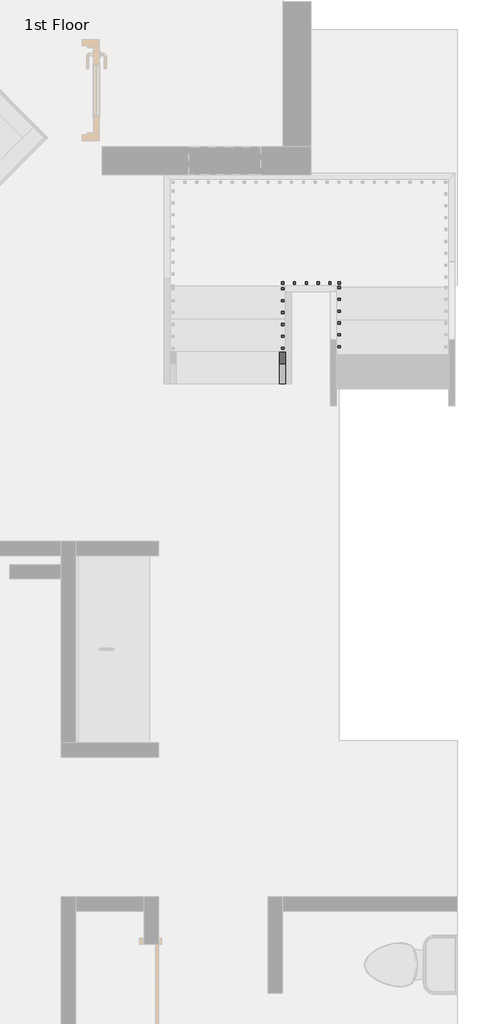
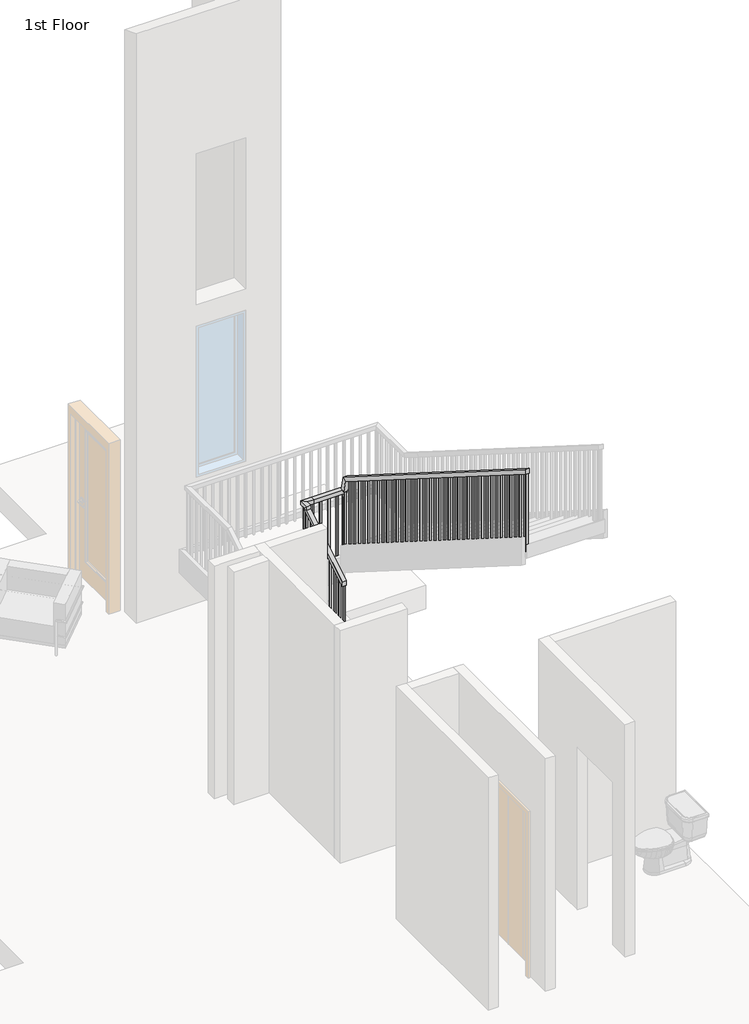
# One storey, part 4 of 6: 1 railing.
"""IFC4 building model written with IfcOpenShell, lengths in millimetres."""

import ifcopenshell
import ifcopenshell.guid

model = None  # the IFC model being written
_history = None  # IfcOwnerHistory: only IFC2X3 demands one
_inside = {}  # id of a spatial element -> (the spatial element, [elements in it])
_under = {}  # id of a project, library or spatial element -> (it, [spatial elements below it])
_declared = {}  # id of a project -> (the project, [libraries it declares])
_typed = {}  # id of a type object -> (the type object, [elements of that type])
_made_of = {}  # id of a material, layer set ... -> (it, [elements and type objects made of it])


def new_model(schema):
    """Start an empty IFC model of exactly this schema.

    Asked for "IFC4X3", IfcOpenShell would pick the latest addendum, in which some entities
    have other attributes; the version numbers below select the first issue.
    IFC2X3 requires an IfcOwnerHistory on every rooted entity: one is made here for all.
    """
    global model, _history
    if schema == "IFC4X3":
        model = ifcopenshell.file(schema_version=(4, 3, 0, 0))
    else:
        model = ifcopenshell.file(schema=schema)
    _inside.clear()
    _under.clear()
    _declared.clear()
    _typed.clear()
    _made_of.clear()
    _history = None
    if model.schema == "IFC2X3":
        org = make("IfcOrganization", Name="unknown")
        user = make(
            "IfcPersonAndOrganization",
            ThePerson=make("IfcPerson", FamilyName="unknown"),
            TheOrganization=org,
        )
        app = make(
            "IfcApplication",
            ApplicationDeveloper=org,
            Version="unknown",
            ApplicationFullName="unknown",
            ApplicationIdentifier="unknown",
        )
        _history = make(
            "IfcOwnerHistory",
            OwningUser=user,
            OwningApplication=app,
            ChangeAction="ADDED",
            CreationDate=0,
        )
    return model


def make(cls, **values):
    """One entity of the class cls with the attributes given. An attribute that is None is left unset."""
    return model.create_entity(
        cls, **{name: value for name, value in values.items() if value is not None}
    )


def rooted(cls, **values):
    """An entity with a GlobalId (a new one), such as an element, a storey or a relation."""
    return make(cls, GlobalId=ifcopenshell.guid.new(), OwnerHistory=_history, **values)


def si_unit(unit_type, name, prefix=None):
    """IfcSIUnit, for example si_unit("LENGTHUNIT", "METRE", prefix="MILLI")."""
    return make("IfcSIUnit", UnitType=unit_type, Prefix=prefix, Name=name)


def assignment(units):
    """IfcUnitAssignment: the units of a project."""
    return None if units is None else make("IfcUnitAssignment", Units=units)


def point(xyz):
    """IfcCartesianPoint."""
    return None if xyz is None else make("IfcCartesianPoint", Coordinates=xyz)


def direction(xyz):
    """IfcDirection."""
    return None if xyz is None else make("IfcDirection", DirectionRatios=xyz)


def frame(location, z_axis=None, x_axis=None):
    """IfcAxis2Placement3D, a coordinate frame: its origin and axes. An axis left out is left unset."""
    return make(
        "IfcAxis2Placement3D",
        Location=point(location),
        Axis=direction(z_axis),
        RefDirection=direction(x_axis),
    )


def origin():
    """The frame at (0, 0, 0) with its axes left unset."""
    return frame((0.0, 0.0, 0.0))


def place(relative_to, where):
    """IfcLocalPlacement: puts the frame where relative to a parent placement (None: the world)."""
    return make(
        "IfcLocalPlacement", PlacementRelTo=relative_to, RelativePlacement=where
    )


def context(
    kind, dimensions, precision=None, world=None, true_north=None, identifier=None
):
    """IfcGeometricRepresentationContext, for example the 3D "Model" context."""
    return make(
        "IfcGeometricRepresentationContext",
        ContextIdentifier=identifier,
        ContextType=kind,
        CoordinateSpaceDimension=dimensions,
        Precision=precision,
        WorldCoordinateSystem=world,
        TrueNorth=true_north,
    )


def project(units=None, contexts=None):
    """IfcProject with its units and contexts."""
    return rooted(
        "IfcProject",
        Name="project",
        RepresentationContexts=contexts,
        UnitsInContext=assignment(units),
    )


def spatial(cls, under=None, at=None, **own):
    """A site, building, storey or space (cls), placed at a placement, below another one or the project."""
    s = rooted(cls, ObjectPlacement=at, **own)
    if under is not None:
        _under.setdefault(under.id(), (under, []))[1].append(s)
    return s


def polyline(points):
    """IfcPolyline through the points."""
    return make("IfcPolyline", Points=[point(p) for p in points])


def outline(outer, holes=None, kind="AREA"):
    """IfcArbitraryClosedProfileDef: a profile drawn as a closed curve; with holes, ...WithVoids."""
    if holes is None:
        return make("IfcArbitraryClosedProfileDef", ProfileType=kind, OuterCurve=outer)
    return make(
        "IfcArbitraryProfileDefWithVoids",
        ProfileType=kind,
        OuterCurve=outer,
        InnerCurves=holes,
    )


def extrude(swept, where, along, depth):
    """IfcExtrudedAreaSolid: the profile swept, set in the frame where, extruded along a direction by depth."""
    return make(
        "IfcExtrudedAreaSolid",
        SweptArea=swept,
        Position=where,
        ExtrudedDirection=direction(along),
        Depth=depth,
    )


def faces_of(points, faces, orient=None, outer=None):
    """IfcFace entities. A face is a list of loops; a loop is a list of indices into points, from 0.

    orient and outer hold one flag for each loop. By default every Orientation is true, the
    first loop of a face is its IfcFaceOuterBound and the others are IfcFaceBound.
    """
    made = []
    for i, loops in enumerate(faces):
        bounds = []
        for j, loop in enumerate(loops):
            is_outer = j == 0 if outer is None else outer[i][j]
            bounds.append(
                make(
                    "IfcFaceOuterBound" if is_outer else "IfcFaceBound",
                    Bound=make("IfcPolyLoop", Polygon=[points[k] for k in loop]),
                    Orientation=True if orient is None else orient[i][j],
                )
            )
        made.append(make("IfcFace", Bounds=bounds))
    return made


def faceted_brep(points, faces, orient=None, outer=None, voids=None):
    """IfcFacetedBrep: a solid bounded by flat faces; with voids (closed shells), ...WithVoids."""
    shared = [point(p) for p in points]
    hull = make("IfcClosedShell", CfsFaces=faces_of(shared, faces, orient, outer))
    if voids is None:
        return make("IfcFacetedBrep", Outer=hull)
    return make(
        "IfcFacetedBrepWithVoids",
        Outer=hull,
        Voids=[
            make(cls, CfsFaces=faces_of(shared, fs, o, b)) for cls, fs, o, b in voids
        ],
    )


def shape(context_of_items, identifier, shape_type, items):
    """IfcShapeRepresentation: the items that make up one representation, for example the "Body"."""
    return make(
        "IfcShapeRepresentation",
        ContextOfItems=context_of_items,
        RepresentationIdentifier=identifier,
        RepresentationType=shape_type,
        Items=items,
    )


def made_of(thing, what):
    """Note that an element or type object is made of a material, layer set ...; save() writes the relation."""
    if what is not None:
        _made_of.setdefault(what.id(), (what, []))[1].append(thing)
    return thing


def element(
    cls,
    number,
    at=None,
    inside=None,
    cuts=None,
    type_object=None,
    material=None,
    context=None,
    identifier="Body",
    shape_type=None,
    held_by="IfcProductDefinitionShape",
    body=None,
    shapes=None,
    **own,
):
    """One element of the class cls, such as IfcWall. Its Tag is "e" and its number.

    at: its placement. inside: the storey or other place that contains it. cuts: it is an
    opening in that element (IfcRelVoidsElement). A single representation is given by context,
    identifier, shape_type and body (its items); several are given by shapes. held_by: the class
    of the entity that holds the representations. save() writes the other relations.
    """
    e = rooted(cls, Tag="e%d" % number, ObjectPlacement=at, **own)
    if body is not None:
        shapes = [shape(context, identifier, shape_type, body)]
    if shapes is not None:
        e.Representation = make(held_by, Representations=shapes)
    if inside is not None:
        _inside.setdefault(inside.id(), (inside, []))[1].append(e)
    if cuts is not None:
        rooted(
            "IfcRelVoidsElement", RelatingBuildingElement=cuts, RelatedOpeningElement=e
        )
    if type_object is not None:
        _typed.setdefault(type_object.id(), (type_object, []))[1].append(e)
    return made_of(e, material)


def aggregate(whole, parts):
    """IfcRelAggregates: a whole, such as a stair, and the parts it consists of."""
    return rooted("IfcRelAggregates", RelatingObject=whole, RelatedObjects=parts)


def save(model, path):
    """Write the relations noted so far, then the file.

    IfcRelAggregates (storeys below a building ...), IfcRelContainedInSpatialStructure (elements
    in a storey), IfcRelDefinesByType, IfcRelAssociatesMaterial and IfcRelDeclares: one each for
    every whole, place, type object, material and project.
    """
    for whole, parts in _under.values():
        aggregate(whole, parts)
    for where, things in _inside.values():
        rooted(
            "IfcRelContainedInSpatialStructure",
            RelatedElements=things,
            RelatingStructure=where,
        )
    for kind, things in _typed.values():
        rooted("IfcRelDefinesByType", RelatedObjects=things, RelatingType=kind)
    for what, things in _made_of.values():
        rooted("IfcRelAssociatesMaterial", RelatedObjects=things, RelatingMaterial=what)
    for by, libraries in _declared.values():
        rooted("IfcRelDeclares", RelatingContext=by, RelatedDefinitions=libraries)
    model.write(path)


model = new_model("IFC4")

# Units and contexts
model_context = context("Model", 3, world=origin())
ifc_project = project(units=[si_unit("LENGTHUNIT", "METRE", prefix="MILLI")], contexts=[model_context])

# Site, building, storey
site = spatial("IfcSite", under=ifc_project)
building = spatial("IfcBuilding", under=site)
storey = spatial("IfcBuildingStorey", under=building, Name="1st Floor", Elevation=0.0)

# Railing
placement = place(None, origin())
element("IfcRailing", 1, ObjectType="Handrail - Rectangular", at=placement, inside=storey, context=model_context, shape_type="SolidModel", body=[
    faceted_brep([(4173.7939282, 2721.6563085, 1090.8631579), (4173.7939282, 2721.6563085, 1030.7795781), (4224.5939282, 2721.6563085, 1030.7795781), (4224.5939282, 2721.6563085, 1090.8631579), (4173.7939282, 3483.6563085, 1572.1263158), (4173.7939282, 3534.4563085, 1544.1269465), (4224.5939282, 3534.4563085, 1544.1269465), (4224.5939282, 3483.6563085, 1572.1263158), (4173.7939282, 3483.6563085, 1620.2526316), (4173.7939282, 3534.4563085, 1569.4526316), (4224.5939282, 3534.4563085, 1569.4526316), (4224.5939282, 3483.6563085, 1620.2526316), (4173.7939282, 3610.6563085, 1620.2526316), (4173.7939282, 3610.6563085, 1569.4526316), (4224.5939282, 3559.8563085, 1569.4526316), (4224.5939282, 3559.8563085, 1620.2526316), (4300.7939282, 3610.6563085, 1620.2526316), (4300.7939282, 3610.6563085, 1569.4526316), (4300.7939282, 3559.8563085, 1569.4526316), (4300.7939282, 3559.8563085, 1620.2526316), (4709.2030789, 3610.6563085, 1620.2526316), (4709.2030789, 3559.8563085, 1620.2526316), (4709.2030789, 3559.8563085, 1569.4526316), (4709.2030789, 3610.6563085, 1569.4526316)], [[[0, 1, 2, 3]], [[1, 0, 4, 5]], [[2, 1, 5, 6]], [[3, 2, 6, 7]], [[0, 3, 7, 4]], [[5, 4, 8, 9]], [[6, 5, 9, 10]], [[7, 6, 10, 11]], [[4, 7, 11, 8]], [[9, 8, 12, 13]], [[10, 9, 13, 14]], [[11, 10, 14, 15]], [[8, 11, 15, 12]], [[13, 12, 16, 17]], [[14, 13, 17, 18]], [[15, 14, 18, 19]], [[12, 15, 19, 16]], [[20, 21, 22, 23]], [[17, 16, 20, 23]], [[18, 17, 23, 22]], [[19, 18, 22, 21]], [[16, 19, 21, 20]]]),
    faceted_brep([(4709.2030789, 3585.2563085, 1620.2526316), (4709.2030789, 3535.6297104, 1609.3971833), (4658.4030789, 3535.6297104, 1609.3971833), (4658.4030789, 3585.2563085, 1620.2526316), (4709.2030789, 3546.6563085, 1796.7157895), (4709.2030789, 3501.5690485, 1765.1083739), (4658.4030789, 3501.5690485, 1765.1083739), (4658.4030789, 3546.6563085, 1796.7157895), (4709.2030789, -364.9436915, 4267.2), (4658.4030789, -364.9436915, 4267.2), (4658.4030789, -364.9436915, 4207.1164202), (4709.2030789, -364.9436915, 4207.1164202)], [[[0, 1, 2, 3]], [[1, 0, 4, 5]], [[2, 1, 5, 6]], [[3, 2, 6, 7]], [[0, 3, 7, 4]], [[8, 9, 10, 11]], [[5, 4, 8, 11]], [[6, 5, 11, 10]], [[7, 6, 10, 9]], [[4, 7, 9, 8]]]),
    extrude(outline(polyline([(-323.6686915, 4181.0479991), (-304.6186915, 4169.0164202), (-304.6186915, 3176.3368421), (-323.6686915, 3176.3368421), (-323.6686915, 4181.0479991)])), frame((4674.2780789, 0.0, 0.0), z_axis=(1.0, 0.0, 0.0), x_axis=(0.0, 1.0, 0.0)), (0.0, 0.0, 1.0), 19.05),
    extrude(outline(polyline([(-222.0686915, 4116.8795781), (-203.0186915, 4104.8479991), (-203.0186915, 3176.3368421), (-222.0686915, 3176.3368421), (-222.0686915, 4116.8795781)])), frame((4674.2780789, 0.0, 0.0), z_axis=(1.0, 0.0, 0.0), x_axis=(0.0, 1.0, 0.0)), (0.0, 0.0, 1.0), 19.05),
    extrude(outline(polyline([(-120.4686915, 4052.711157), (-101.4186915, 4040.6795781), (-101.4186915, 3176.3368421), (-120.4686915, 3176.3368421), (-120.4686915, 4052.711157)])), frame((4674.2780789, 0.0, 0.0), z_axis=(1.0, 0.0, 0.0), x_axis=(0.0, 1.0, 0.0)), (0.0, 0.0, 1.0), 19.05),
    extrude(outline(polyline([(-18.8686915, 3988.542736), (0.1813085, 3976.511157), (0.1813085, 2999.8736842), (-18.8686915, 2999.8736842), (-18.8686915, 3988.542736)])), frame((4674.2780789, 0.0, 0.0), z_axis=(1.0, 0.0, 0.0), x_axis=(0.0, 1.0, 0.0)), (0.0, 0.0, 1.0), 19.05),
    extrude(outline(polyline([(82.7313085, 3924.3743149), (101.7813085, 3912.342736), (101.7813085, 2999.8736842), (82.7313085, 2999.8736842), (82.7313085, 3924.3743149)])), frame((4674.2780789, 0.0, 0.0), z_axis=(1.0, 0.0, 0.0), x_axis=(0.0, 1.0, 0.0)), (0.0, 0.0, 1.0), 19.05),
    extrude(outline(polyline([(184.3313085, 3860.2058939), (203.3813085, 3848.1743149), (203.3813085, 2999.8736842), (184.3313085, 2999.8736842), (184.3313085, 3860.2058939)])), frame((4674.2780789, 0.0, 0.0), z_axis=(1.0, 0.0, 0.0), x_axis=(0.0, 1.0, 0.0)), (0.0, 0.0, 1.0), 19.05),
    extrude(outline(polyline([(285.9313085, 3796.0374728), (304.9813085, 3784.0058939), (304.9813085, 2823.4105263), (285.9313085, 2823.4105263), (285.9313085, 3796.0374728)])), frame((4674.2780789, 0.0, 0.0), z_axis=(1.0, 0.0, 0.0), x_axis=(0.0, 1.0, 0.0)), (0.0, 0.0, 1.0), 19.05),
    extrude(outline(polyline([(387.5313085, 3731.8690517), (406.5813085, 3719.8374728), (406.5813085, 2823.4105263), (387.5313085, 2823.4105263), (387.5313085, 3731.8690517)])), frame((4674.2780789, 0.0, 0.0), z_axis=(1.0, 0.0, 0.0), x_axis=(0.0, 1.0, 0.0)), (0.0, 0.0, 1.0), 19.05),
    extrude(outline(polyline([(489.1313085, 3667.7006307), (508.1813085, 3655.6690517), (508.1813085, 2646.9473684), (489.1313085, 2646.9473684), (489.1313085, 3667.7006307)])), frame((4674.2780789, 0.0, 0.0), z_axis=(1.0, 0.0, 0.0), x_axis=(0.0, 1.0, 0.0)), (0.0, 0.0, 1.0), 19.05),
    extrude(outline(polyline([(590.7313085, 3603.5322096), (609.7813085, 3591.5006307), (609.7813085, 2646.9473684), (590.7313085, 2646.9473684), (590.7313085, 3603.5322096)])), frame((4674.2780789, 0.0, 0.0), z_axis=(1.0, 0.0, 0.0), x_axis=(0.0, 1.0, 0.0)), (0.0, 0.0, 1.0), 19.05),
    extrude(outline(polyline([(692.3313085, 3539.3637886), (711.3813085, 3527.3322096), (711.3813085, 2646.9473684), (692.3313085, 2646.9473684), (692.3313085, 3539.3637886)])), frame((4674.2780789, 0.0, 0.0), z_axis=(1.0, 0.0, 0.0), x_axis=(0.0, 1.0, 0.0)), (0.0, 0.0, 1.0), 19.05),
    extrude(outline(polyline([(793.9313085, 3475.1953675), (812.9813085, 3463.1637886), (812.9813085, 2470.4842105), (793.9313085, 2470.4842105), (793.9313085, 3475.1953675)])), frame((4674.2780789, 0.0, 0.0), z_axis=(1.0, 0.0, 0.0), x_axis=(0.0, 1.0, 0.0)), (0.0, 0.0, 1.0), 19.05),
    extrude(outline(polyline([(895.5313085, 3411.0269465), (914.5813085, 3398.9953675), (914.5813085, 2470.4842105), (895.5313085, 2470.4842105), (895.5313085, 3411.0269465)])), frame((4674.2780789, 0.0, 0.0), z_axis=(1.0, 0.0, 0.0), x_axis=(0.0, 1.0, 0.0)), (0.0, 0.0, 1.0), 19.05),
    extrude(outline(polyline([(997.1313085, 3346.8585254), (1016.1813085, 3334.8269465), (1016.1813085, 2470.4842105), (997.1313085, 2470.4842105), (997.1313085, 3346.8585254)])), frame((4674.2780789, 0.0, 0.0), z_axis=(1.0, 0.0, 0.0), x_axis=(0.0, 1.0, 0.0)), (0.0, 0.0, 1.0), 19.05),
    extrude(outline(polyline([(1098.7313085, 3282.6901044), (1117.7813085, 3270.6585254), (1117.7813085, 2294.0210526), (1098.7313085, 2294.0210526), (1098.7313085, 3282.6901044)])), frame((4674.2780789, 0.0, 0.0), z_axis=(1.0, 0.0, 0.0), x_axis=(0.0, 1.0, 0.0)), (0.0, 0.0, 1.0), 19.05),
    extrude(outline(polyline([(1200.3313085, 3218.5216833), (1219.3813085, 3206.4901044), (1219.3813085, 2294.0210526), (1200.3313085, 2294.0210526), (1200.3313085, 3218.5216833)])), frame((4674.2780789, 0.0, 0.0), z_axis=(1.0, 0.0, 0.0), x_axis=(0.0, 1.0, 0.0)), (0.0, 0.0, 1.0), 19.05),
    extrude(outline(polyline([(1301.9313085, 3154.3532623), (1320.9813085, 3142.3216833), (1320.9813085, 2294.0210526), (1301.9313085, 2294.0210526), (1301.9313085, 3154.3532623)])), frame((4674.2780789, 0.0, 0.0), z_axis=(1.0, 0.0, 0.0), x_axis=(0.0, 1.0, 0.0)), (0.0, 0.0, 1.0), 19.05),
    extrude(outline(polyline([(1403.5313085, 3090.1848412), (1422.5813085, 3078.1532623), (1422.5813085, 2117.5578947), (1403.5313085, 2117.5578947), (1403.5313085, 3090.1848412)])), frame((4674.2780789, 0.0, 0.0), z_axis=(1.0, 0.0, 0.0), x_axis=(0.0, 1.0, 0.0)), (0.0, 0.0, 1.0), 19.05),
    extrude(outline(polyline([(1505.1313085, 3026.0164202), (1524.1813085, 3013.9848412), (1524.1813085, 2117.5578947), (1505.1313085, 2117.5578947), (1505.1313085, 3026.0164202)])), frame((4674.2780789, 0.0, 0.0), z_axis=(1.0, 0.0, 0.0), x_axis=(0.0, 1.0, 0.0)), (0.0, 0.0, 1.0), 19.05),
    extrude(outline(polyline([(1606.7313085, 2961.8479991), (1625.7813085, 2949.8164202), (1625.7813085, 1941.0947368), (1606.7313085, 1941.0947368), (1606.7313085, 2961.8479991)])), frame((4674.2780789, 0.0, 0.0), z_axis=(1.0, 0.0, 0.0), x_axis=(0.0, 1.0, 0.0)), (0.0, 0.0, 1.0), 19.05),
    extrude(outline(polyline([(1708.3313085, 2897.6795781), (1727.3813085, 2885.6479991), (1727.3813085, 1941.0947368), (1708.3313085, 1941.0947368), (1708.3313085, 2897.6795781)])), frame((4674.2780789, 0.0, 0.0), z_axis=(1.0, 0.0, 0.0), x_axis=(0.0, 1.0, 0.0)), (0.0, 0.0, 1.0), 19.05),
    extrude(outline(polyline([(1809.9313085, 2833.511157), (1828.9813085, 2821.4795781), (1828.9813085, 1941.0947368), (1809.9313085, 1941.0947368), (1809.9313085, 2833.511157)])), frame((4674.2780789, 0.0, 0.0), z_axis=(1.0, 0.0, 0.0), x_axis=(0.0, 1.0, 0.0)), (0.0, 0.0, 1.0), 19.05),
    extrude(outline(polyline([(1911.5313085, 2769.342736), (1930.5813085, 2757.311157), (1930.5813085, 1764.6315789), (1911.5313085, 1764.6315789), (1911.5313085, 2769.342736)])), frame((4674.2780789, 0.0, 0.0), z_axis=(1.0, 0.0, 0.0), x_axis=(0.0, 1.0, 0.0)), (0.0, 0.0, 1.0), 19.05),
    extrude(outline(polyline([(2013.1313085, 2705.1743149), (2032.1813085, 2693.142736), (2032.1813085, 1764.6315789), (2013.1313085, 1764.6315789), (2013.1313085, 2705.1743149)])), frame((4674.2780789, 0.0, 0.0), z_axis=(1.0, 0.0, 0.0), x_axis=(0.0, 1.0, 0.0)), (0.0, 0.0, 1.0), 19.05),
    extrude(outline(polyline([(2114.7313085, 2641.0058939), (2133.7813085, 2628.9743149), (2133.7813085, 1764.6315789), (2114.7313085, 1764.6315789), (2114.7313085, 2641.0058939)])), frame((4674.2780789, 0.0, 0.0), z_axis=(1.0, 0.0, 0.0), x_axis=(0.0, 1.0, 0.0)), (0.0, 0.0, 1.0), 19.05),
    extrude(outline(polyline([(2216.3313085, 2576.8374728), (2235.3813085, 2564.8058939), (2235.3813085, 1588.1684211), (2216.3313085, 1588.1684211), (2216.3313085, 2576.8374728)])), frame((4674.2780789, 0.0, 0.0), z_axis=(1.0, 0.0, 0.0), x_axis=(0.0, 1.0, 0.0)), (0.0, 0.0, 1.0), 19.05),
    extrude(outline(polyline([(2317.9313085, 2512.6690517), (2336.9813085, 2500.6374728), (2336.9813085, 1588.1684211), (2317.9313085, 1588.1684211), (2317.9313085, 2512.6690517)])), frame((4674.2780789, 0.0, 0.0), z_axis=(1.0, 0.0, 0.0), x_axis=(0.0, 1.0, 0.0)), (0.0, 0.0, 1.0), 19.05),
    extrude(outline(polyline([(2419.5313085, 2448.5006307), (2438.5813085, 2436.4690517), (2438.5813085, 1588.1684211), (2419.5313085, 1588.1684211), (2419.5313085, 2448.5006307)])), frame((4674.2780789, 0.0, 0.0), z_axis=(1.0, 0.0, 0.0), x_axis=(0.0, 1.0, 0.0)), (0.0, 0.0, 1.0), 19.05),
    extrude(outline(polyline([(2521.1313085, 2384.3322096), (2540.1813085, 2372.3006307), (2540.1813085, 1411.7052632), (2521.1313085, 1411.7052632), (2521.1313085, 2384.3322096)])), frame((4674.2780789, 0.0, 0.0), z_axis=(1.0, 0.0, 0.0), x_axis=(0.0, 1.0, 0.0)), (0.0, 0.0, 1.0), 19.05),
    extrude(outline(polyline([(2622.7313085, 2320.1637886), (2641.7813085, 2308.1322096), (2641.7813085, 1411.7052632), (2622.7313085, 1411.7052632), (2622.7313085, 2320.1637886)])), frame((4674.2780789, 0.0, 0.0), z_axis=(1.0, 0.0, 0.0), x_axis=(0.0, 1.0, 0.0)), (0.0, 0.0, 1.0), 19.05),
    extrude(outline(polyline([(2724.3313085, 2255.9953675), (2743.3813085, 2243.9637886), (2743.3813085, 1235.2421053), (2724.3313085, 1235.2421053), (2724.3313085, 2255.9953675)])), frame((4674.2780789, 0.0, 0.0), z_axis=(1.0, 0.0, 0.0), x_axis=(0.0, 1.0, 0.0)), (0.0, 0.0, 1.0), 19.05),
    extrude(outline(polyline([(2825.9313085, 2191.8269465), (2844.9813085, 2179.7953675), (2844.9813085, 1235.2421053), (2825.9313085, 1235.2421053), (2825.9313085, 2191.8269465)])), frame((4674.2780789, 0.0, 0.0), z_axis=(1.0, 0.0, 0.0), x_axis=(0.0, 1.0, 0.0)), (0.0, 0.0, 1.0), 19.05),
    extrude(outline(polyline([(2927.5313085, 2127.6585254), (2946.5813085, 2115.6269465), (2946.5813085, 1235.2421053), (2927.5313085, 1235.2421053), (2927.5313085, 2127.6585254)])), frame((4674.2780789, 0.0, 0.0), z_axis=(1.0, 0.0, 0.0), x_axis=(0.0, 1.0, 0.0)), (0.0, 0.0, 1.0), 19.05),
    extrude(outline(polyline([(3029.1313085, 2063.4901044), (3048.1813085, 2051.4585254), (3048.1813085, 1058.7789474), (3029.1313085, 1058.7789474), (3029.1313085, 2063.4901044)])), frame((4674.2780789, 0.0, 0.0), z_axis=(1.0, 0.0, 0.0), x_axis=(0.0, 1.0, 0.0)), (0.0, 0.0, 1.0), 19.05),
    extrude(outline(polyline([(3130.7313085, 1999.3216833), (3149.7813085, 1987.2901044), (3149.7813085, 1058.7789474), (3130.7313085, 1058.7789474), (3130.7313085, 1999.3216833)])), frame((4674.2780789, 0.0, 0.0), z_axis=(1.0, 0.0, 0.0), x_axis=(0.0, 1.0, 0.0)), (0.0, 0.0, 1.0), 19.05),
    extrude(outline(polyline([(3232.3313085, 1935.1532623), (3251.3813085, 1923.1216833), (3251.3813085, 1058.7789474), (3232.3313085, 1058.7789474), (3232.3313085, 1935.1532623)])), frame((4674.2780789, 0.0, 0.0), z_axis=(1.0, 0.0, 0.0), x_axis=(0.0, 1.0, 0.0)), (0.0, 0.0, 1.0), 19.05),
    extrude(outline(polyline([(3333.9313085, 1870.9848412), (3352.9813085, 1858.9532623), (3352.9813085, 882.3157895), (3333.9313085, 882.3157895), (3333.9313085, 1870.9848412)])), frame((4674.2780789, 0.0, 0.0), z_axis=(1.0, 0.0, 0.0), x_axis=(0.0, 1.0, 0.0)), (0.0, 0.0, 1.0), 19.05),
    extrude(outline(polyline([(3435.5313085, 1806.8164202), (3454.5813085, 1794.7848412), (3454.5813085, 882.3157895), (3435.5313085, 882.3157895), (3435.5313085, 1806.8164202)])), frame((4674.2780789, 0.0, 0.0), z_axis=(1.0, 0.0, 0.0), x_axis=(0.0, 1.0, 0.0)), (0.0, 0.0, 1.0), 19.05),
    extrude(outline(polyline([(4596.0689282, 3575.7313085), (4596.0689282, 3594.7813085), (4615.1189282, 3594.7813085), (4615.1189282, 3575.7313085), (4596.0689282, 3575.7313085)])), frame((0.0, 0.0, 705.8526316), z_axis=(0.0, 0.0, 1.0), x_axis=(1.0, 0.0, 0.0)), (0.0, 0.0, 1.0), 863.6),
    extrude(outline(polyline([(4494.4689282, 3575.7313085), (4494.4689282, 3594.7813085), (4513.5189282, 3594.7813085), (4513.5189282, 3575.7313085), (4494.4689282, 3575.7313085)])), frame((0.0, 0.0, 705.8526316), z_axis=(0.0, 0.0, 1.0), x_axis=(1.0, 0.0, 0.0)), (0.0, 0.0, 1.0), 863.6),
    extrude(outline(polyline([(4392.8689282, 3575.7313085), (4392.8689282, 3594.7813085), (4411.9189282, 3594.7813085), (4411.9189282, 3575.7313085), (4392.8689282, 3575.7313085)])), frame((0.0, 0.0, 705.8526316), z_axis=(0.0, 0.0, 1.0), x_axis=(1.0, 0.0, 0.0)), (0.0, 0.0, 1.0), 863.6),
    extrude(outline(polyline([(4291.2689282, 3575.7313085), (4291.2689282, 3594.7813085), (4310.3189282, 3594.7813085), (4310.3189282, 3575.7313085), (4291.2689282, 3575.7313085)])), frame((0.0, 0.0, 705.8526316), z_axis=(0.0, 0.0, 1.0), x_axis=(1.0, 0.0, 0.0)), (0.0, 0.0, 1.0), 863.6),
    extrude(outline(polyline([(4208.7189282, 3524.9313085), (4189.6689282, 3524.9313085), (4189.6689282, 3543.9813085), (4208.7189282, 3543.9813085), (4208.7189282, 3524.9313085)])), frame((0.0, 0.0, 529.3894737), z_axis=(0.0, 0.0, 1.0), x_axis=(1.0, 0.0, 0.0)), (0.0, 0.0, 1.0), 1040.0631579),
    extrude(outline(polyline([(3423.3313085, 1473.942736), (3442.3813085, 1485.9743149), (3442.3813085, 529.3894737), (3423.3313085, 529.3894737), (3423.3313085, 1473.942736)])), frame((4189.6689282, 0.0, 0.0), z_axis=(1.0, 0.0, 0.0), x_axis=(0.0, 1.0, 0.0)), (0.0, 0.0, 1.0), 19.05),
    extrude(outline(polyline([(3321.7313085, 1409.7743149), (3340.7813085, 1421.8058939), (3340.7813085, 529.3894737), (3321.7313085, 529.3894737), (3321.7313085, 1409.7743149)])), frame((4189.6689282, 0.0, 0.0), z_axis=(1.0, 0.0, 0.0), x_axis=(0.0, 1.0, 0.0)), (0.0, 0.0, 1.0), 19.05),
    extrude(outline(polyline([(3220.1313085, 1345.6058939), (3239.1813085, 1357.6374728), (3239.1813085, 352.9263158), (3220.1313085, 352.9263158), (3220.1313085, 1345.6058939)])), frame((4189.6689282, 0.0, 0.0), z_axis=(1.0, 0.0, 0.0), x_axis=(0.0, 1.0, 0.0)), (0.0, 0.0, 1.0), 19.05),
    extrude(outline(polyline([(3118.5313085, 1281.4374728), (3137.5813085, 1293.4690517), (3137.5813085, 352.9263158), (3118.5313085, 352.9263158), (3118.5313085, 1281.4374728)])), frame((4189.6689282, 0.0, 0.0), z_axis=(1.0, 0.0, 0.0), x_axis=(0.0, 1.0, 0.0)), (0.0, 0.0, 1.0), 19.05),
    extrude(outline(polyline([(3016.9313085, 1217.2690517), (3035.9813085, 1229.3006307), (3035.9813085, 352.9263158), (3016.9313085, 352.9263158), (3016.9313085, 1217.2690517)])), frame((4189.6689282, 0.0, 0.0), z_axis=(1.0, 0.0, 0.0), x_axis=(0.0, 1.0, 0.0)), (0.0, 0.0, 1.0), 19.05),
    extrude(outline(polyline([(2915.3313085, 1153.1006307), (2934.3813085, 1165.1322096), (2934.3813085, 176.4631579), (2915.3313085, 176.4631579), (2915.3313085, 1153.1006307)])), frame((4189.6689282, 0.0, 0.0), z_axis=(1.0, 0.0, 0.0), x_axis=(0.0, 1.0, 0.0)), (0.0, 0.0, 1.0), 19.05),
    extrude(outline(polyline([(2813.7313085, 1088.9322096), (2832.7813085, 1100.9637886), (2832.7813085, 176.4631579), (2813.7313085, 176.4631579), (2813.7313085, 1088.9322096)])), frame((4189.6689282, 0.0, 0.0), z_axis=(1.0, 0.0, 0.0), x_axis=(0.0, 1.0, 0.0)), (0.0, 0.0, 1.0), 19.05),
    extrude(outline(polyline([(3537.1313085, 1602.5325007), (3556.1813085, 1515.4438178), (3556.1813085, 705.8526316), (3537.1313085, 705.8526316), (3537.1313085, 1602.5325007)])), frame((4674.2780789, 0.0, 0.0), z_axis=(1.0, 0.0, 0.0), x_axis=(0.0, 1.0, 0.0)), (0.0, 0.0, 1.0), 19.05),
    extrude(outline(polyline([(4674.2780789, 3575.7313085), (4674.2780789, 3594.7813085), (4693.3280789, 3594.7813085), (4693.3280789, 3575.7313085), (4674.2780789, 3575.7313085)])), frame((0.0, 0.0, 705.8526316), z_axis=(0.0, 0.0, 1.0), x_axis=(1.0, 0.0, 0.0)), (0.0, 0.0, 1.0), 863.6),
    extrude(outline(polyline([(4208.7189282, 3575.7313085), (4189.6689282, 3575.7313085), (4189.6689282, 3594.7813085), (4208.7189282, 3594.7813085), (4208.7189282, 3575.7313085)])), frame((0.0, 0.0, 705.8526316), z_axis=(0.0, 0.0, 1.0), x_axis=(1.0, 0.0, 0.0)), (0.0, 0.0, 1.0), 863.6),
    extrude(outline(polyline([(-364.9436915, 4207.1164202), (-345.8936915, 4195.0848412), (-345.8936915, 3176.3368421), (-364.9436915, 3176.3368421), (-364.9436915, 4207.1164202)])), frame((4674.2780789, 0.0, 0.0), z_axis=(1.0, 0.0, 0.0), x_axis=(0.0, 1.0, 0.0)), (0.0, 0.0, 1.0), 19.05),
    extrude(outline(polyline([(2721.6563085, 1030.7795781), (2740.7063085, 1042.811157), (2740.7063085, 176.4631579), (2721.6563085, 176.4631579), (2721.6563085, 1030.7795781)])), frame((4189.6689282, 0.0, 0.0), z_axis=(1.0, 0.0, 0.0), x_axis=(0.0, 1.0, 0.0)), (0.0, 0.0, 1.0), 19.05),
])

save(model, "model.ifc")
